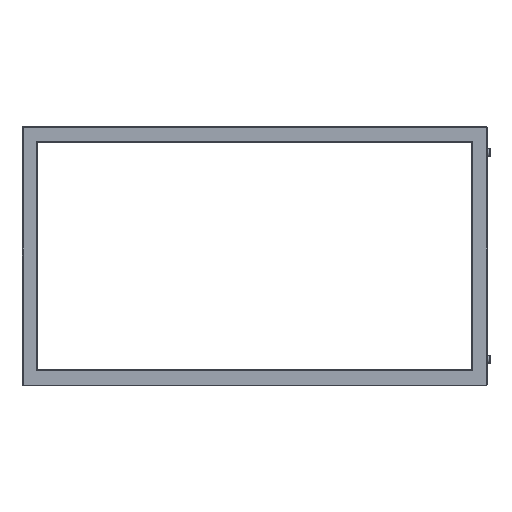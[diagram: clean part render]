
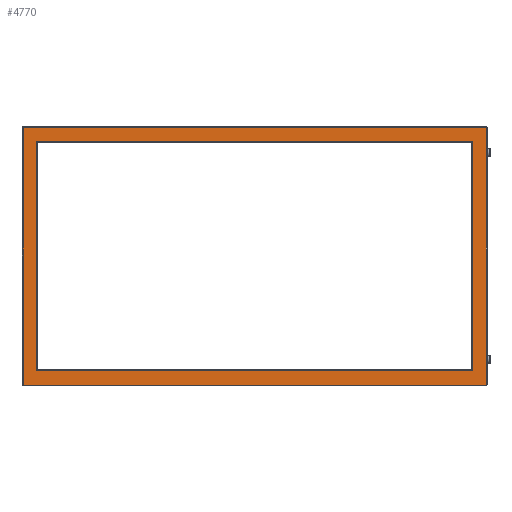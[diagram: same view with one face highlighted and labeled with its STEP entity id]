
A CAD part, left-side view. The second image highlights one B-rep face of the part: STEP entity #4770.
In plain terms, the highlighted planar face has unit normal (-1, 0, 0).
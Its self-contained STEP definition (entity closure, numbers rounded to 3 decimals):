
#71=FACE_BOUND('',#688,.T.);
#375=FACE_OUTER_BOUND('',#687,.T.);
#687=EDGE_LOOP('',(#3596,#3597,#3598,#3599));
#688=EDGE_LOOP('',(#3600,#3601,#3602,#3603));
#1096=LINE('',#7379,#1626);
#1097=LINE('',#7383,#1627);
#1098=LINE('',#7388,#1628);
#1100=LINE('',#7394,#1630);
#1101=LINE('',#7397,#1631);
#1104=LINE('',#7403,#1634);
#1105=LINE('',#7405,#1635);
#1106=LINE('',#7406,#1636);
#1626=VECTOR('',#6029,10.);
#1627=VECTOR('',#6032,10.);
#1628=VECTOR('',#6039,10.);
#1630=VECTOR('',#6045,10.);
#1631=VECTOR('',#6050,10.);
#1634=VECTOR('',#6057,10.);
#1635=VECTOR('',#6058,10.);
#1636=VECTOR('',#6059,10.);
#2127=VERTEX_POINT('',#7375);
#2128=VERTEX_POINT('',#7377);
#2129=VERTEX_POINT('',#7381);
#2130=VERTEX_POINT('',#7382);
#2131=VERTEX_POINT('',#7387);
#2133=VERTEX_POINT('',#7393);
#2134=VERTEX_POINT('',#7402);
#2135=VERTEX_POINT('',#7404);
#2648=EDGE_CURVE('',#2128,#2127,#1096,.T.);
#2649=EDGE_CURVE('',#2129,#2130,#1097,.T.);
#2652=EDGE_CURVE('',#2130,#2131,#1098,.T.);
#2655=EDGE_CURVE('',#2131,#2133,#1100,.T.);
#2657=EDGE_CURVE('',#2133,#2129,#1101,.T.);
#2660=EDGE_CURVE('',#2127,#2134,#1104,.T.);
#2661=EDGE_CURVE('',#2135,#2128,#1105,.T.);
#2662=EDGE_CURVE('',#2134,#2135,#1106,.T.);
#3596=ORIENTED_EDGE('',*,*,#2660,.F.);
#3597=ORIENTED_EDGE('',*,*,#2648,.F.);
#3598=ORIENTED_EDGE('',*,*,#2661,.F.);
#3599=ORIENTED_EDGE('',*,*,#2662,.F.);
#3600=ORIENTED_EDGE('',*,*,#2649,.F.);
#3601=ORIENTED_EDGE('',*,*,#2657,.F.);
#3602=ORIENTED_EDGE('',*,*,#2655,.F.);
#3603=ORIENTED_EDGE('',*,*,#2652,.F.);
#4342=PLANE('',#5186);
#4770=ADVANCED_FACE('',(#375,#71),#4342,.T.);
#5186=AXIS2_PLACEMENT_3D('',#7401,#6055,#6056);
#6029=DIRECTION('',(0.,1.,0.));
#6032=DIRECTION('',(0.,0.,1.));
#6039=DIRECTION('',(0.,1.,0.));
#6045=DIRECTION('',(0.,0.,-1.));
#6050=DIRECTION('',(0.,-1.,0.));
#6055=DIRECTION('center_axis',(-1.,0.,0.));
#6056=DIRECTION('ref_axis',(0.,0.,1.));
#6057=DIRECTION('',(0.,0.,1.));
#6058=DIRECTION('',(0.,0.,-1.));
#6059=DIRECTION('',(0.,-1.,0.));
#7375=CARTESIAN_POINT('',(-500.,898.,-250.));
#7377=CARTESIAN_POINT('',(-500.,2.,-250.));
#7379=CARTESIAN_POINT('',(-500.,0.,-250.));
#7381=CARTESIAN_POINT('',(-500.,28.,-222.));
#7382=CARTESIAN_POINT('',(-500.,28.,222.));
#7383=CARTESIAN_POINT('',(-500.,28.,-181.97));
#7387=CARTESIAN_POINT('',(-500.,872.,222.));
#7388=CARTESIAN_POINT('',(-500.,15.,222.));
#7393=CARTESIAN_POINT('',(-500.,872.,-222.));
#7394=CARTESIAN_POINT('',(-500.,872.,-125.));
#7397=CARTESIAN_POINT('',(-500.,15.,-222.));
#7401=CARTESIAN_POINT('Origin',(-500.,0.,-250.));
#7402=CARTESIAN_POINT('',(-500.,898.,248.));
#7403=CARTESIAN_POINT('',(-500.,898.,-242.5));
#7404=CARTESIAN_POINT('',(-500.,2.,248.));
#7405=CARTESIAN_POINT('',(-500.,2.,-181.97));
#7406=CARTESIAN_POINT('',(-500.,0.,248.));
